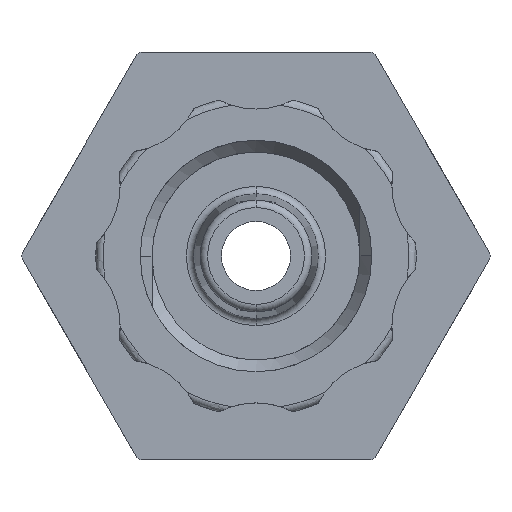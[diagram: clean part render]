
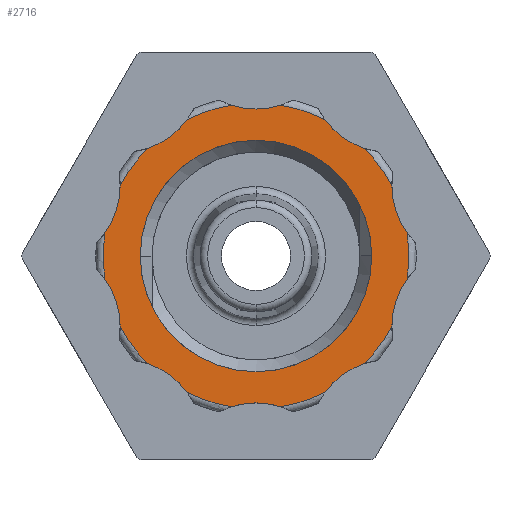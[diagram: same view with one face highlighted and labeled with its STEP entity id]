
A CAD part, front view. The second image highlights one B-rep face of the part: STEP entity #2716.
In plain terms, the highlighted planar face has unit normal (0, -1, 0).
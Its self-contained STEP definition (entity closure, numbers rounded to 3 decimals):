
#22 = VERTEX_POINT('',#23);
#23 = CARTESIAN_POINT('',(0.85,-7.442,-5.214));
#54 = VERTEX_POINT('',#55);
#55 = CARTESIAN_POINT('',(0.,-7.442,-5.08));
#61 = EDGE_CURVE('',#54,#22,#62,.T.);
#62 = CIRCLE('',#63,2.76);
#63 = AXIS2_PLACEMENT_3D('',#64,#65,#66);
#64 = CARTESIAN_POINT('',(0.,-7.442,-7.84));
#65 = DIRECTION('',(-0.,1.,0.));
#66 = DIRECTION('',(0.,0.,-1.));
#2248 = VERTEX_POINT('',#2249);
#2249 = CARTESIAN_POINT('',(0.,-7.442,-4.001));
#2255 = EDGE_CURVE('',#2256,#2248,#2258,.T.);
#2256 = VERTEX_POINT('',#2257);
#2257 = CARTESIAN_POINT('',(0.,-7.442,4.001));
#2258 = CIRCLE('',#2259,4.001);
#2259 = AXIS2_PLACEMENT_3D('',#2260,#2261,#2262);
#2260 = CARTESIAN_POINT('',(0.,-7.442,0.));
#2261 = DIRECTION('',(0.,-1.,0.));
#2262 = DIRECTION('',(0.,0.,-1.));
#2400 = EDGE_CURVE('',#2248,#2256,#2401,.T.);
#2401 = CIRCLE('',#2402,4.001);
#2402 = AXIS2_PLACEMENT_3D('',#2403,#2404,#2405);
#2403 = CARTESIAN_POINT('',(0.,-7.442,0.));
#2404 = DIRECTION('',(0.,-1.,0.));
#2405 = DIRECTION('',(0.,0.,-1.));
#2716 = ADVANCED_FACE('',(#2717,#2721),#2902,.T.);
#2717 = FACE_BOUND('',#2718,.T.);
#2718 = EDGE_LOOP('',(#2719,#2720));
#2719 = ORIENTED_EDGE('',*,*,#2400,.F.);
#2720 = ORIENTED_EDGE('',*,*,#2255,.F.);
#2721 = FACE_BOUND('',#2722,.T.);
#2722 = EDGE_LOOP('',(#2723,#2734,#2743,#2752,#2761,#2770,#2779,#2788,
    #2797,#2806,#2813,#2814,#2823,#2832,#2841,#2850,#2859,#2868,#2877,
    #2886,#2895));
#2723 = ORIENTED_EDGE('',*,*,#2724,.T.);
#2724 = EDGE_CURVE('',#2725,#2727,#2729,.T.);
#2725 = VERTEX_POINT('',#2726);
#2726 = CARTESIAN_POINT('',(-0.85,-7.442,5.214));
#2727 = VERTEX_POINT('',#2728);
#2728 = CARTESIAN_POINT('',(-2.377,-7.442,4.718));
#2729 = CIRCLE('',#2730,5.283);
#2730 = AXIS2_PLACEMENT_3D('',#2731,#2732,#2733);
#2731 = CARTESIAN_POINT('',(0.,-7.442,0.));
#2732 = DIRECTION('',(0.,-1.,0.));
#2733 = DIRECTION('',(0.,0.,-1.));
#2734 = ORIENTED_EDGE('',*,*,#2735,.T.);
#2735 = EDGE_CURVE('',#2727,#2736,#2738,.T.);
#2736 = VERTEX_POINT('',#2737);
#2737 = CARTESIAN_POINT('',(-3.753,-7.442,3.719));
#2738 = CIRCLE('',#2739,2.76);
#2739 = AXIS2_PLACEMENT_3D('',#2740,#2741,#2742);
#2740 = CARTESIAN_POINT('',(-4.608,-7.442,6.342));
#2741 = DIRECTION('',(0.,1.,-0.));
#2742 = DIRECTION('',(0.,-0.,-1.));
#2743 = ORIENTED_EDGE('',*,*,#2744,.T.);
#2744 = EDGE_CURVE('',#2736,#2745,#2747,.T.);
#2745 = VERTEX_POINT('',#2746);
#2746 = CARTESIAN_POINT('',(-4.696,-7.442,2.42));
#2747 = CIRCLE('',#2748,5.283);
#2748 = AXIS2_PLACEMENT_3D('',#2749,#2750,#2751);
#2749 = CARTESIAN_POINT('',(0.,-7.442,0.));
#2750 = DIRECTION('',(0.,-1.,0.));
#2751 = DIRECTION('',(0.,0.,-1.));
#2752 = ORIENTED_EDGE('',*,*,#2753,.T.);
#2753 = EDGE_CURVE('',#2745,#2754,#2756,.T.);
#2754 = VERTEX_POINT('',#2755);
#2755 = CARTESIAN_POINT('',(-5.222,-7.442,0.802));
#2756 = CIRCLE('',#2757,2.76);
#2757 = AXIS2_PLACEMENT_3D('',#2758,#2759,#2760);
#2758 = CARTESIAN_POINT('',(-7.456,-7.442,2.423));
#2759 = DIRECTION('',(-0.,1.,0.));
#2760 = DIRECTION('',(0.,0.,-1.));
#2761 = ORIENTED_EDGE('',*,*,#2762,.T.);
#2762 = EDGE_CURVE('',#2754,#2763,#2765,.T.);
#2763 = VERTEX_POINT('',#2764);
#2764 = CARTESIAN_POINT('',(-5.222,-7.442,-0.802));
#2765 = CIRCLE('',#2766,5.283);
#2766 = AXIS2_PLACEMENT_3D('',#2767,#2768,#2769);
#2767 = CARTESIAN_POINT('',(0.,-7.442,0.));
#2768 = DIRECTION('',(0.,-1.,0.));
#2769 = DIRECTION('',(0.,0.,-1.));
#2770 = ORIENTED_EDGE('',*,*,#2771,.T.);
#2771 = EDGE_CURVE('',#2763,#2772,#2774,.T.);
#2772 = VERTEX_POINT('',#2773);
#2773 = CARTESIAN_POINT('',(-4.696,-7.442,-2.42));
#2774 = CIRCLE('',#2775,2.76);
#2775 = AXIS2_PLACEMENT_3D('',#2776,#2777,#2778);
#2776 = CARTESIAN_POINT('',(-7.456,-7.442,-2.423));
#2777 = DIRECTION('',(-0.,1.,0.));
#2778 = DIRECTION('',(0.,0.,-1.));
#2779 = ORIENTED_EDGE('',*,*,#2780,.T.);
#2780 = EDGE_CURVE('',#2772,#2781,#2783,.T.);
#2781 = VERTEX_POINT('',#2782);
#2782 = CARTESIAN_POINT('',(-3.753,-7.442,-3.719));
#2783 = CIRCLE('',#2784,5.283);
#2784 = AXIS2_PLACEMENT_3D('',#2785,#2786,#2787);
#2785 = CARTESIAN_POINT('',(0.,-7.442,0.));
#2786 = DIRECTION('',(0.,-1.,0.));
#2787 = DIRECTION('',(0.,0.,-1.));
#2788 = ORIENTED_EDGE('',*,*,#2789,.T.);
#2789 = EDGE_CURVE('',#2781,#2790,#2792,.T.);
#2790 = VERTEX_POINT('',#2791);
#2791 = CARTESIAN_POINT('',(-2.377,-7.442,-4.718));
#2792 = CIRCLE('',#2793,2.76);
#2793 = AXIS2_PLACEMENT_3D('',#2794,#2795,#2796);
#2794 = CARTESIAN_POINT('',(-4.608,-7.442,-6.342));
#2795 = DIRECTION('',(-0.,1.,0.));
#2796 = DIRECTION('',(0.,0.,-1.));
#2797 = ORIENTED_EDGE('',*,*,#2798,.T.);
#2798 = EDGE_CURVE('',#2790,#2799,#2801,.T.);
#2799 = VERTEX_POINT('',#2800);
#2800 = CARTESIAN_POINT('',(-0.85,-7.442,-5.214));
#2801 = CIRCLE('',#2802,5.283);
#2802 = AXIS2_PLACEMENT_3D('',#2803,#2804,#2805);
#2803 = CARTESIAN_POINT('',(0.,-7.442,0.));
#2804 = DIRECTION('',(0.,-1.,0.));
#2805 = DIRECTION('',(0.,0.,-1.));
#2806 = ORIENTED_EDGE('',*,*,#2807,.T.);
#2807 = EDGE_CURVE('',#2799,#54,#2808,.T.);
#2808 = CIRCLE('',#2809,2.76);
#2809 = AXIS2_PLACEMENT_3D('',#2810,#2811,#2812);
#2810 = CARTESIAN_POINT('',(0.,-7.442,-7.84)
  );
#2811 = DIRECTION('',(-0.,1.,0.));
#2812 = DIRECTION('',(0.,0.,-1.));
#2813 = ORIENTED_EDGE('',*,*,#61,.T.);
#2814 = ORIENTED_EDGE('',*,*,#2815,.T.);
#2815 = EDGE_CURVE('',#22,#2816,#2818,.T.);
#2816 = VERTEX_POINT('',#2817);
#2817 = CARTESIAN_POINT('',(2.377,-7.442,-4.718));
#2818 = CIRCLE('',#2819,5.283);
#2819 = AXIS2_PLACEMENT_3D('',#2820,#2821,#2822);
#2820 = CARTESIAN_POINT('',(0.,-7.442,0.));
#2821 = DIRECTION('',(0.,-1.,0.));
#2822 = DIRECTION('',(0.,0.,-1.));
#2823 = ORIENTED_EDGE('',*,*,#2824,.T.);
#2824 = EDGE_CURVE('',#2816,#2825,#2827,.T.);
#2825 = VERTEX_POINT('',#2826);
#2826 = CARTESIAN_POINT('',(3.753,-7.442,-3.719));
#2827 = CIRCLE('',#2828,2.76);
#2828 = AXIS2_PLACEMENT_3D('',#2829,#2830,#2831);
#2829 = CARTESIAN_POINT('',(4.608,-7.442,-6.342));
#2830 = DIRECTION('',(-0.,1.,0.));
#2831 = DIRECTION('',(0.,0.,-1.));
#2832 = ORIENTED_EDGE('',*,*,#2833,.T.);
#2833 = EDGE_CURVE('',#2825,#2834,#2836,.T.);
#2834 = VERTEX_POINT('',#2835);
#2835 = CARTESIAN_POINT('',(4.696,-7.442,-2.42));
#2836 = CIRCLE('',#2837,5.283);
#2837 = AXIS2_PLACEMENT_3D('',#2838,#2839,#2840);
#2838 = CARTESIAN_POINT('',(0.,-7.442,0.));
#2839 = DIRECTION('',(0.,-1.,0.));
#2840 = DIRECTION('',(0.,0.,-1.));
#2841 = ORIENTED_EDGE('',*,*,#2842,.T.);
#2842 = EDGE_CURVE('',#2834,#2843,#2845,.T.);
#2843 = VERTEX_POINT('',#2844);
#2844 = CARTESIAN_POINT('',(5.222,-7.442,-0.802));
#2845 = CIRCLE('',#2846,2.76);
#2846 = AXIS2_PLACEMENT_3D('',#2847,#2848,#2849);
#2847 = CARTESIAN_POINT('',(7.456,-7.442,-2.423));
#2848 = DIRECTION('',(-0.,1.,0.));
#2849 = DIRECTION('',(0.,0.,-1.));
#2850 = ORIENTED_EDGE('',*,*,#2851,.T.);
#2851 = EDGE_CURVE('',#2843,#2852,#2854,.T.);
#2852 = VERTEX_POINT('',#2853);
#2853 = CARTESIAN_POINT('',(5.222,-7.442,0.802));
#2854 = CIRCLE('',#2855,5.283);
#2855 = AXIS2_PLACEMENT_3D('',#2856,#2857,#2858);
#2856 = CARTESIAN_POINT('',(0.,-7.442,0.));
#2857 = DIRECTION('',(0.,-1.,0.));
#2858 = DIRECTION('',(0.,0.,-1.));
#2859 = ORIENTED_EDGE('',*,*,#2860,.T.);
#2860 = EDGE_CURVE('',#2852,#2861,#2863,.T.);
#2861 = VERTEX_POINT('',#2862);
#2862 = CARTESIAN_POINT('',(4.696,-7.442,2.42));
#2863 = CIRCLE('',#2864,2.76);
#2864 = AXIS2_PLACEMENT_3D('',#2865,#2866,#2867);
#2865 = CARTESIAN_POINT('',(7.456,-7.442,2.423));
#2866 = DIRECTION('',(-0.,1.,0.));
#2867 = DIRECTION('',(0.,0.,-1.));
#2868 = ORIENTED_EDGE('',*,*,#2869,.T.);
#2869 = EDGE_CURVE('',#2861,#2870,#2872,.T.);
#2870 = VERTEX_POINT('',#2871);
#2871 = CARTESIAN_POINT('',(3.753,-7.442,3.719));
#2872 = CIRCLE('',#2873,5.283);
#2873 = AXIS2_PLACEMENT_3D('',#2874,#2875,#2876);
#2874 = CARTESIAN_POINT('',(0.,-7.442,0.));
#2875 = DIRECTION('',(0.,-1.,0.));
#2876 = DIRECTION('',(0.,0.,-1.));
#2877 = ORIENTED_EDGE('',*,*,#2878,.T.);
#2878 = EDGE_CURVE('',#2870,#2879,#2881,.T.);
#2879 = VERTEX_POINT('',#2880);
#2880 = CARTESIAN_POINT('',(2.377,-7.442,4.718));
#2881 = CIRCLE('',#2882,2.76);
#2882 = AXIS2_PLACEMENT_3D('',#2883,#2884,#2885);
#2883 = CARTESIAN_POINT('',(4.608,-7.442,6.342));
#2884 = DIRECTION('',(-0.,1.,0.));
#2885 = DIRECTION('',(0.,0.,-1.));
#2886 = ORIENTED_EDGE('',*,*,#2887,.T.);
#2887 = EDGE_CURVE('',#2879,#2888,#2890,.T.);
#2888 = VERTEX_POINT('',#2889);
#2889 = CARTESIAN_POINT('',(0.85,-7.442,5.214));
#2890 = CIRCLE('',#2891,5.283);
#2891 = AXIS2_PLACEMENT_3D('',#2892,#2893,#2894);
#2892 = CARTESIAN_POINT('',(0.,-7.442,0.));
#2893 = DIRECTION('',(0.,-1.,0.));
#2894 = DIRECTION('',(0.,0.,-1.));
#2895 = ORIENTED_EDGE('',*,*,#2896,.T.);
#2896 = EDGE_CURVE('',#2888,#2725,#2897,.T.);
#2897 = CIRCLE('',#2898,2.76);
#2898 = AXIS2_PLACEMENT_3D('',#2899,#2900,#2901);
#2899 = CARTESIAN_POINT('',(0.,-7.442,7.84));
#2900 = DIRECTION('',(-0.,1.,0.));
#2901 = DIRECTION('',(0.,0.,-1.));
#2902 = PLANE('',#2903);
#2903 = AXIS2_PLACEMENT_3D('',#2904,#2905,#2906);
#2904 = CARTESIAN_POINT('',(0.,-7.442,0.));
#2905 = DIRECTION('',(0.,-1.,0.));
#2906 = DIRECTION('',(0.,0.,-1.));
